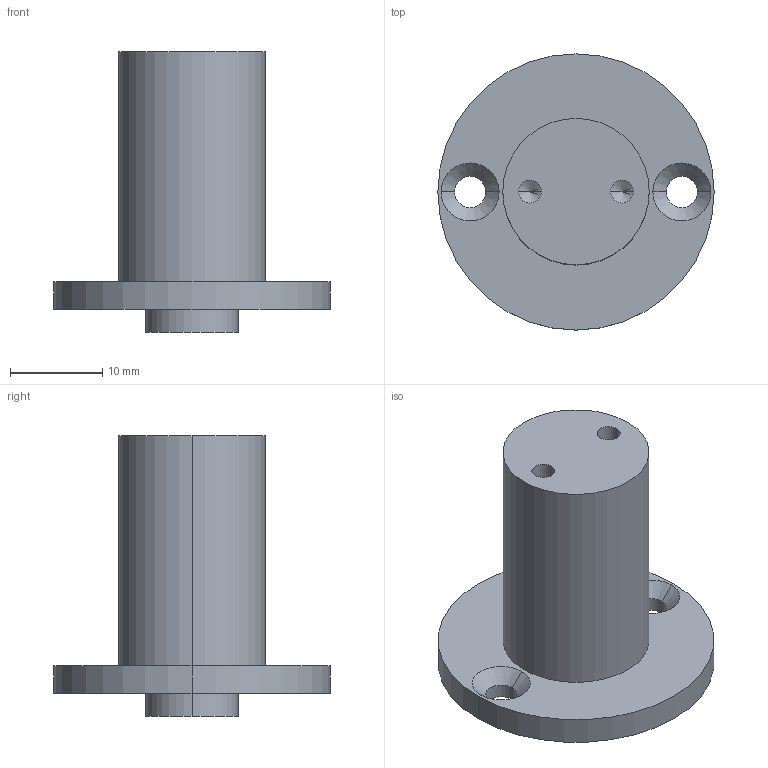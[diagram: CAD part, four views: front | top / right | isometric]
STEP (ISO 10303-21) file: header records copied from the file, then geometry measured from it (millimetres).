
FILE_DESCRIPTION (( 'STEP AP203' ), '1' );
FILE_NAME ('stepper-support-shaft.STEP', '2024-07-01T06:56:31', ( '' ), ( '' ), 'SwSTEP 2.0', 'SolidWorks 2021', '' );
FILE_SCHEMA (( 'CONFIG_CONTROL_DESIGN' ));
Length unit declared in the file: millimetre
Products named in the file (1): stepper-support-shaft
Bounding box: 30 x 30 x 30.5 mm (x, y, z)
Volume: 7096.9 mm3; surface area: 3197.6 mm2
Topology: 1 solids, 1 shells, 26 faces, 58 edges, 34 vertices
Faces by surface type: cylinder 14, cone 8, plane 4
Entity records: 787 total; most frequent: DIRECTION 140, CARTESIAN_POINT 115, ORIENTED_EDGE 108, AXIS2_PLACEMENT_3D 59, EDGE_CURVE 54, EDGE_LOOP 34, VERTEX_POINT 34, CIRCLE 32
